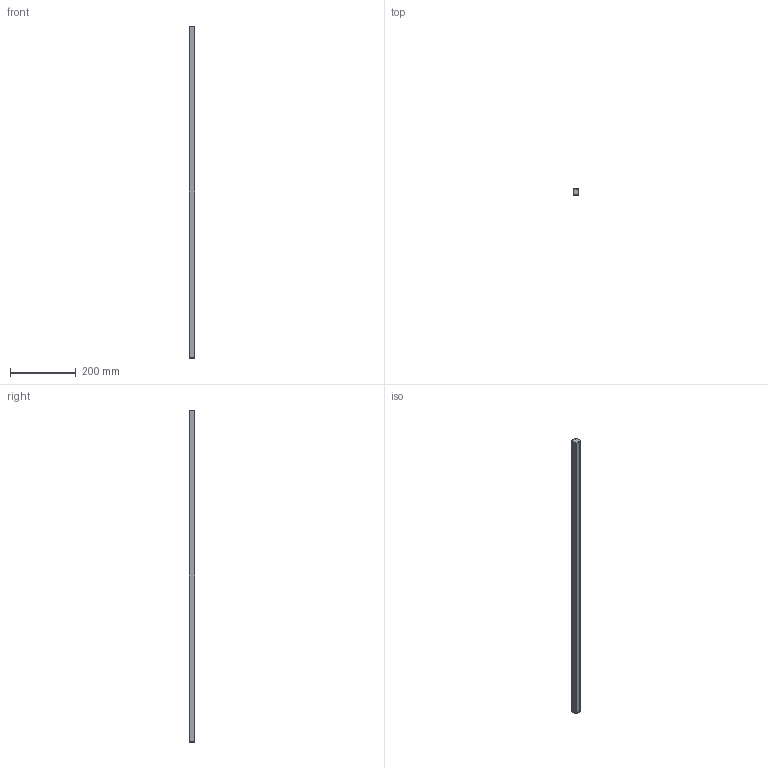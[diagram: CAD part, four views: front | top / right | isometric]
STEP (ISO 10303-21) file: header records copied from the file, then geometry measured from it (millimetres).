
FILE_DESCRIPTION (( 'STEP AP214' ), '1' );
FILE_NAME ('mLight_Nano LED_1007mm.STEP', '2017-05-16T03:54:18', ( 'GR' ), ( 'Hewlett-Packard Company' ), 'SwSTEP 2.0', 'SolidWorks 2017', '' );
FILE_SCHEMA (( 'AUTOMOTIVE_DESIGN' ));
Length unit declared in the file: millimetre
Products named in the file (1): mLight_Nano LED_1007mm
Bounding box: 17.51 x 17.55 x 1007 mm (x, y, z)
Volume: 265460.1 mm3; surface area: 80623.2 mm2
Topology: 5 solids, 5 shells, 141 faces, 313 edges, 182 vertices
Faces by surface type: plane 100, cylinder 41
Entity records: 3900 total; most frequent: DIRECTION 679, CARTESIAN_POINT 637, ORIENTED_EDGE 626, EDGE_CURVE 313, VECTOR 231, LINE 231, AXIS2_PLACEMENT_3D 224, VERTEX_POINT 182
